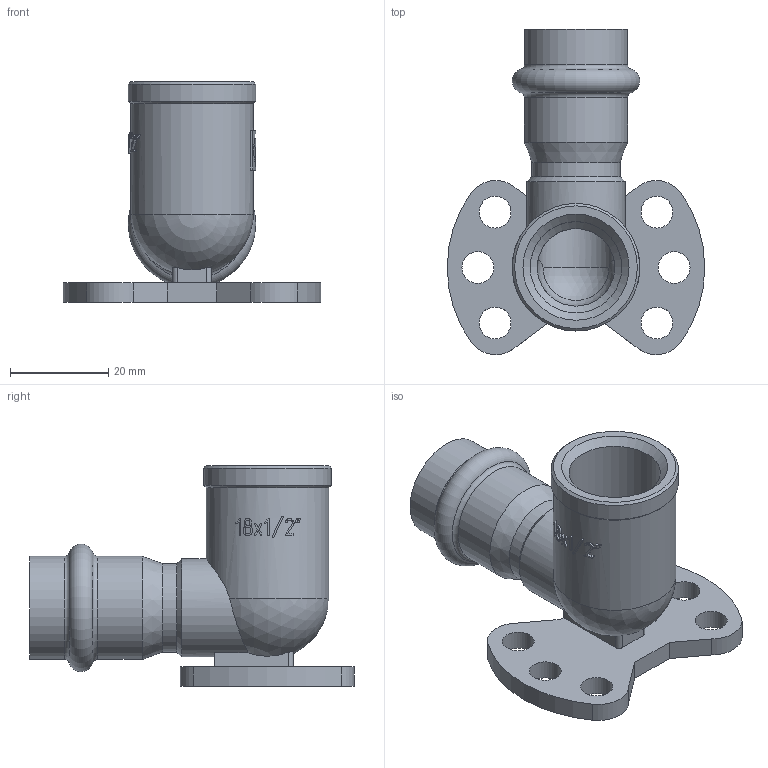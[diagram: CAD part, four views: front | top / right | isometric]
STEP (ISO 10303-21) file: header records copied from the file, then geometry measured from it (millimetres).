
FILE_DESCRIPTION(('STEP AP203'), '1');
FILE_NAME('VTi.954.I.001804', '', ('UNSPECIFIED'), ('UNSPECIFIED'), 'C3D Converter', 'C3D Toolkit', '');
FILE_SCHEMA(('CONFIG_CONTROL_DESIGN'));
Length unit declared in the file: millimetre
Bounding box: 52.5 x 66.23 x 45 mm (x, y, z)
Volume: 18026.9 mm3; surface area: 14087.6 mm2
Topology: 1 solids, 2 shells, 254 faces, 699 edges, 459 vertices
Faces by surface type: extrusion 114, plane 83, cylinder 39, torus 8, cone 7, sphere 3
Full cylindrical faces by diameter (mm): 6.5 x6, 15.3 x1, 15.8 x1, 18 x1, 18.3 x2, 18.632 x1, 20 x1, 21 x2, 25 x1, 26 x1
Entity records: 10777 total; most frequent: CARTESIAN_POINT 5014, ORIENTED_EDGE 1332, DIRECTION 827, EDGE_CURVE 666, VERTEX_POINT 459, VECTOR 371, B_SPLINE_CURVE_WITH_KNOTS 356, EDGE_LOOP 313
